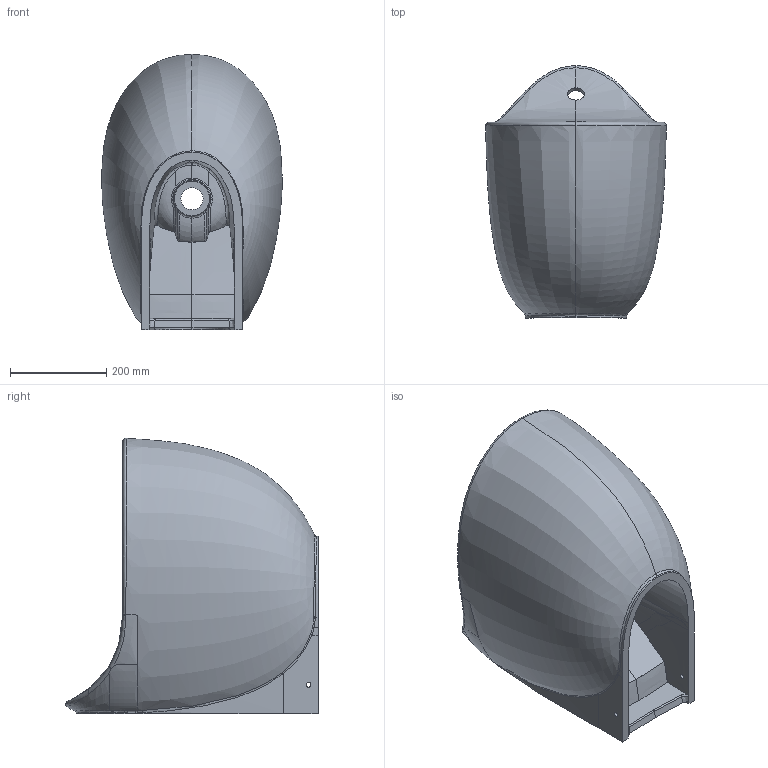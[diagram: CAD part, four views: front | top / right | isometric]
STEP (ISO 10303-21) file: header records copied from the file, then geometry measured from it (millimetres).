
FILE_DESCRIPTION (( 'STEP AP203' ), '1' );
FILE_NAME ('FG500-00CB10E-0000 .STEP', '2022-12-05T13:47:17', ( '' ), ( '' ), 'SwSTEP 2.0', 'SolidWorks 2021', '' );
FILE_SCHEMA (( 'CONFIG_CONTROL_DESIGN' ));
Products named in the file (1): FG500-00CB10E-0000 
Bounding box: 375.21 x 524.52 x 572.09 mm (x, y, z)
Volume: 34530155.8 mm3; surface area: 1322486.6 mm2
Topology: 3 solids, 3 shells, 343 faces, 926 edges, 566 vertices
Faces by surface type: bspline 245, plane 40, cylinder 24, cone 18, sphere 10, torus 6
Entity records: 138874 total; most frequent: CARTESIAN_POINT 132456, ORIENTED_EDGE 1816, EDGE_CURVE 908, B_SPLINE_CURVE_WITH_KNOTS 627, DIRECTION 573, VERTEX_POINT 566, EDGE_LOOP 350, FACE_OUTER_BOUND 343
